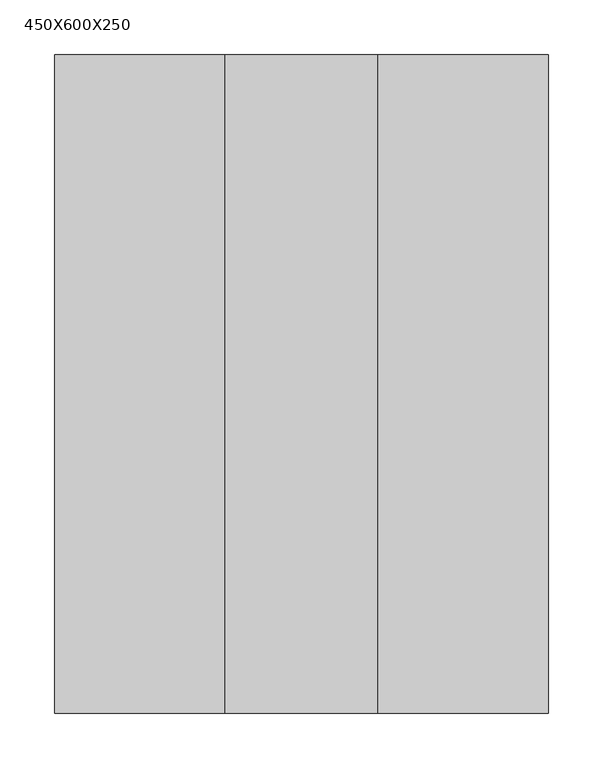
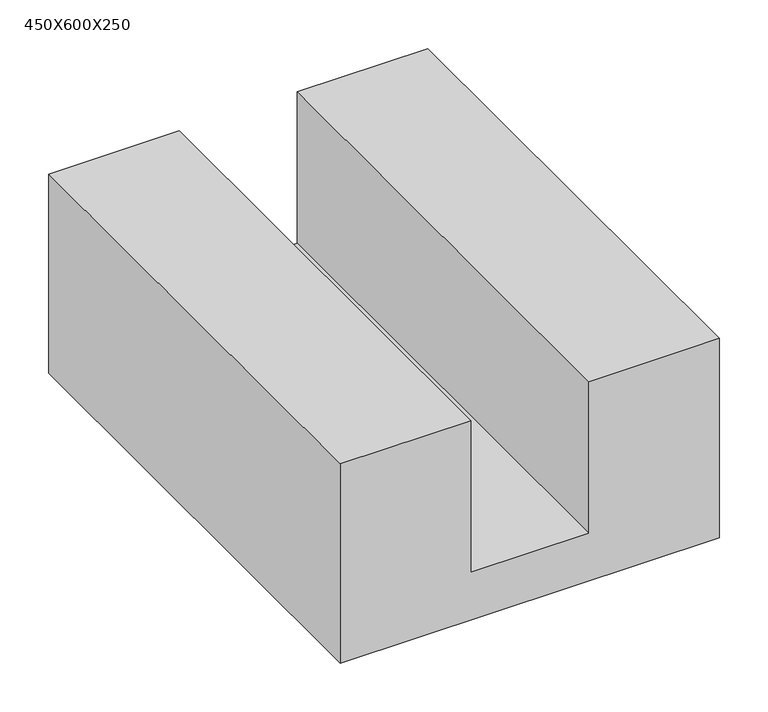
"""IFC4 building model written with IfcOpenShell, lengths in millimetres: plate geometry, GASBETON Evolution Canalette : 450X600X250."""

from ifc_helpers import new_model, si_unit, frame, origin, place, context, project, spatial, polyline, outline, extrude, source, transform, mapped, element, save


def plate_450x600x250_2a7a8ca5(model_context):
    return source(origin(), model_context, "Body", "SweptSolid", [
        extrude(outline(polyline([(0.0, -225.0), (0.0, 225.0), (250.0, 225.0), (250.0, 70.0), (60.0, 70.0), (60.0, -70.0), (250.0, -70.0), (250.0, -225.0), (0.0, -225.0)])), frame((0.0, -300.0, 0.0), z_axis=(0.0, 1.0, 0.0), x_axis=(0.0, 0.0, 1.0)), (0.0, 0.0, 1.0), 600.0),
    ])


if __name__ == "__main__":
    model = new_model("IFC4")
    model_context = context("Model", 3, world=origin())
    ifc_project = project(units=[si_unit("LENGTHUNIT", "METRE", prefix="MILLI")], contexts=[model_context])
    site = spatial("IfcSite", under=ifc_project)
    building = spatial("IfcBuilding", under=site)
    placement = place(None, origin())
    plate_450x600x250_shape = plate_450x600x250_2a7a8ca5(model_context)
    element("IfcPlate", 1, ObjectType="GASBETON Evolution Canalette : 450X600X250", at=placement, inside=building, context=model_context, shape_type="MappedRepresentation", body=[
        mapped(plate_450x600x250_shape, transform((0.0, 0.0, 0.0), x_axis=(1.0, 0.0, 0.0), y_axis=(0.0, 1.0, 0.0), z_axis=(0.0, 0.0, 1.0))),
    ])
    save(model, "model.ifc")
